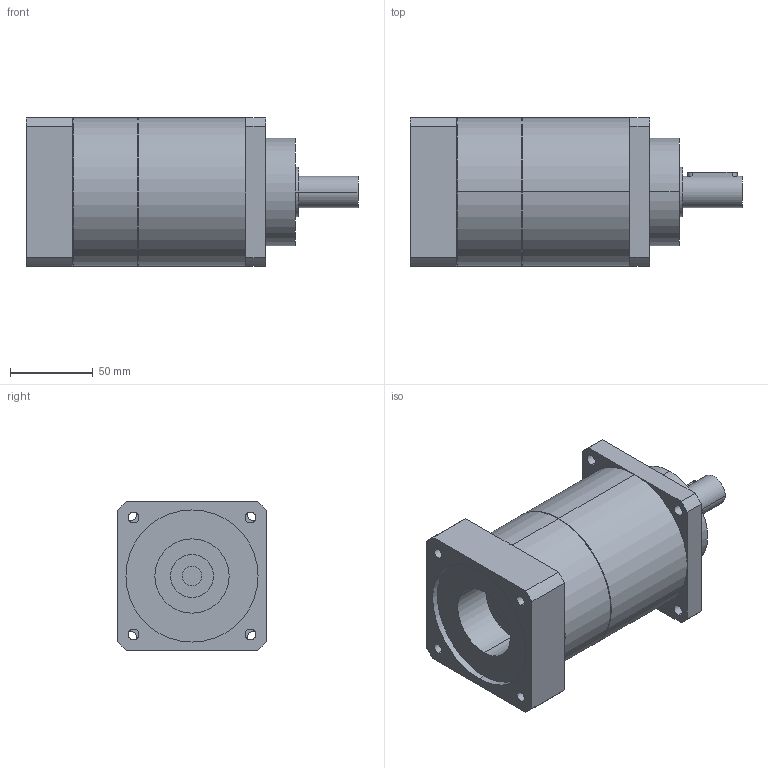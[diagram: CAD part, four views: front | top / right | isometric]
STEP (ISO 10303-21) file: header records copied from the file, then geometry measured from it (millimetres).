
FILE_DESCRIPTION(('CoCreate Modeling STEP Export'),'2;1');
FILE_NAME('GPT90_ig-9-12-16-20-25-28-35-40-50-70-100_19_B5T_12_P28.stp','2015-02-04T11:28:52',(''),(''),'CoCreate Modeling STEP processor for AP214 (Solid Model)','CoCreate Modeling 16.00C 25-Feb-2009 (C) Parametric Technology GmbH','');
FILE_SCHEMA(('AUTOMOTIVE_DESIGN { 1 0 10303 214 1 1 1 1 }'));
Length unit declared in the file: millimetre
Products named in the file (2): GPT90_ig-9-12-16-20-25-28-35-40-50-70-100_19_B5T_12_P28
Assembly tree (1 placements, depth 2):
  GPT90_ig-9-12-16-20-25-28-35-40-50-70-100_19_B5T_12_P28
    GPT90_ig-9-12-16-20-25-28-35-40-50-70-100_19_B5T_12_P28
Bounding box: 201 x 90 x 90 mm (x, y, z)
Volume: 994895.4 mm3; surface area: 78685.8 mm2
Topology: 1 solids, 1 shells, 77 faces, 207 edges, 142 vertices
Faces by surface type: cylinder 46, plane 27, cone 4
Entity records: 2601 total; most frequent: CARTESIAN_POINT 743, ORIENTED_EDGE 414, DIRECTION 324, EDGE_CURVE 207, VERTEX_POINT 142, AXIS2_PLACEMENT_3D 120, EDGE_LOOP 103, VECTOR 84
